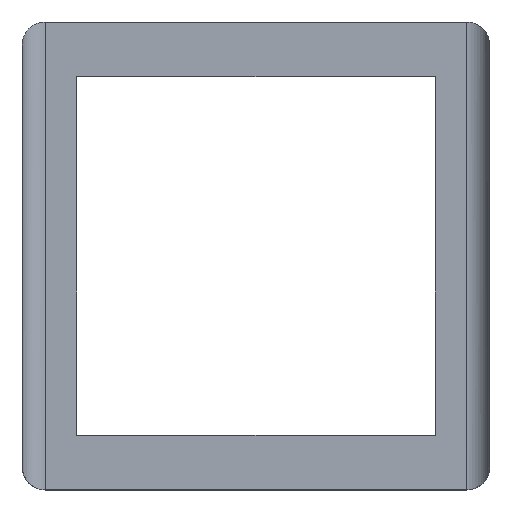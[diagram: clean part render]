
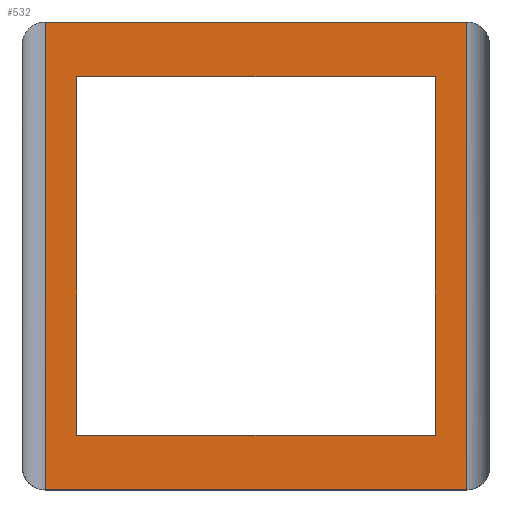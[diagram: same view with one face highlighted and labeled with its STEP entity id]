
A CAD part, top view. The second image highlights one B-rep face of the part: STEP entity #532.
In plain terms, the highlighted planar face has unit normal (0, 0, 1).
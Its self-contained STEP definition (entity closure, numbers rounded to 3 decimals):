
#6 = CARTESIAN_POINT ( 'NONE',  ( -13.5, -15., 1.75 ) ) ;
#11 = ORIENTED_EDGE ( 'NONE', *, *, #150, .T. ) ;
#15 = CARTESIAN_POINT ( 'NONE',  ( -13.5, 15., 1.75 ) ) ;
#24 = ORIENTED_EDGE ( 'NONE', *, *, #383, .T. ) ;
#26 = EDGE_CURVE ( 'NONE', #198, #314, #134, .T. ) ;
#27 = VECTOR ( 'NONE', #347, 1000. ) ;
#31 = DIRECTION ( 'NONE',  ( 0., 1., 0. ) ) ;
#36 = VERTEX_POINT ( 'NONE', #87 ) ;
#45 = ORIENTED_EDGE ( 'NONE', *, *, #26, .F. ) ;
#46 = DIRECTION ( 'NONE',  ( 0., -1., 0. ) ) ;
#48 = CARTESIAN_POINT ( 'NONE',  ( 11.5, -11.5, 1.75 ) ) ;
#51 = EDGE_CURVE ( 'NONE', #500, #286, #68, .T. ) ;
#55 = CARTESIAN_POINT ( 'NONE',  ( -11.5, -11.5, 1.75 ) ) ;
#56 = EDGE_CURVE ( 'NONE', #540, #198, #80, .T. ) ;
#65 = LINE ( 'NONE', #381, #27 ) ;
#66 = VECTOR ( 'NONE', #121, 1000. ) ;
#68 = LINE ( 'NONE', #83, #112 ) ;
#72 = VECTOR ( 'NONE', #31, 1000. ) ;
#75 = DIRECTION ( 'NONE',  ( 1., 0., 0. ) ) ;
#80 = LINE ( 'NONE', #98, #368 ) ;
#83 = CARTESIAN_POINT ( 'NONE',  ( -11.5, 11.5, 1.75 ) ) ;
#87 = CARTESIAN_POINT ( 'NONE',  ( -11.5, -11.5, 1.75 ) ) ;
#90 = DIRECTION ( 'NONE',  ( -1., 0., 0. ) ) ;
#92 = LINE ( 'NONE', #55, #66 ) ;
#98 = CARTESIAN_POINT ( 'NONE',  ( -13.5, -15., 1.75 ) ) ;
#109 = ORIENTED_EDGE ( 'NONE', *, *, #51, .T. ) ;
#112 = VECTOR ( 'NONE', #75, 1000. ) ;
#113 = VECTOR ( 'NONE', #46, 1000. ) ;
#121 = DIRECTION ( 'NONE',  ( 0., 1., 0. ) ) ;
#123 = DIRECTION ( 'NONE',  ( 0., 0., -1. ) ) ;
#127 = VECTOR ( 'NONE', #539, 1000. ) ;
#134 = LINE ( 'NONE', #6, #72 ) ;
#142 = EDGE_CURVE ( 'NONE', #540, #248, #416, .T. ) ;
#150 = EDGE_CURVE ( 'NONE', #357, #36, #65, .T. ) ;
#174 = LINE ( 'NONE', #48, #113 ) ;
#198 = VERTEX_POINT ( 'NONE', #239 ) ;
#200 = LINE ( 'NONE', #15, #127 ) ;
#216 = CARTESIAN_POINT ( 'NONE',  ( -13.5, 15., 1.75 ) ) ;
#221 = FACE_OUTER_BOUND ( 'NONE', #445, .T. ) ;
#239 = CARTESIAN_POINT ( 'NONE',  ( -13.5, -15., 1.75 ) ) ;
#248 = VERTEX_POINT ( 'NONE', #440 ) ;
#251 = FACE_BOUND ( 'NONE', #527, .T. ) ;
#252 = ORIENTED_EDGE ( 'NONE', *, *, #410, .T. ) ;
#286 = VERTEX_POINT ( 'NONE', #310 ) ;
#305 = CARTESIAN_POINT ( 'NONE',  ( 13.5, -15., 1.75 ) ) ;
#310 = CARTESIAN_POINT ( 'NONE',  ( 11.5, 11.5, 1.75 ) ) ;
#312 = DIRECTION ( 'NONE',  ( 0., 1., 0. ) ) ;
#314 = VERTEX_POINT ( 'NONE', #216 ) ;
#338 = PLANE ( 'NONE',  #356 ) ;
#347 = DIRECTION ( 'NONE',  ( -1., 0., 0. ) ) ;
#356 = AXIS2_PLACEMENT_3D ( 'NONE', #485, #123, #541 ) ;
#357 = VERTEX_POINT ( 'NONE', #450 ) ;
#368 = VECTOR ( 'NONE', #90, 1000. ) ;
#381 = CARTESIAN_POINT ( 'NONE',  ( -11.5, -11.5, 1.75 ) ) ;
#383 = EDGE_CURVE ( 'NONE', #248, #314, #200, .T. ) ;
#404 = EDGE_CURVE ( 'NONE', #286, #357, #174, .T. ) ;
#410 = EDGE_CURVE ( 'NONE', #36, #500, #92, .T. ) ;
#416 = LINE ( 'NONE', #305, #460 ) ;
#440 = CARTESIAN_POINT ( 'NONE',  ( 13.5, 15., 1.75 ) ) ;
#442 = CARTESIAN_POINT ( 'NONE',  ( 13.5, -15., 1.75 ) ) ;
#445 = EDGE_LOOP ( 'NONE', ( #24, #45, #521, #505 ) ) ;
#449 = ORIENTED_EDGE ( 'NONE', *, *, #404, .T. ) ;
#450 = CARTESIAN_POINT ( 'NONE',  ( 11.5, -11.5, 1.75 ) ) ;
#460 = VECTOR ( 'NONE', #312, 1000. ) ;
#483 = CARTESIAN_POINT ( 'NONE',  ( -11.5, 11.5, 1.75 ) ) ;
#485 = CARTESIAN_POINT ( 'NONE',  ( -13.5, -15., 1.75 ) ) ;
#500 = VERTEX_POINT ( 'NONE', #483 ) ;
#505 = ORIENTED_EDGE ( 'NONE', *, *, #142, .T. ) ;
#521 = ORIENTED_EDGE ( 'NONE', *, *, #56, .F. ) ;
#527 = EDGE_LOOP ( 'NONE', ( #252, #109, #449, #11 ) ) ;
#532 = ADVANCED_FACE ( 'NONE', ( #251, #221 ), #338, .F. ) ;
#539 = DIRECTION ( 'NONE',  ( -1., 0., 0. ) ) ;
#540 = VERTEX_POINT ( 'NONE', #442 ) ;
#541 = DIRECTION ( 'NONE',  ( -1., 0., 0. ) ) ;
